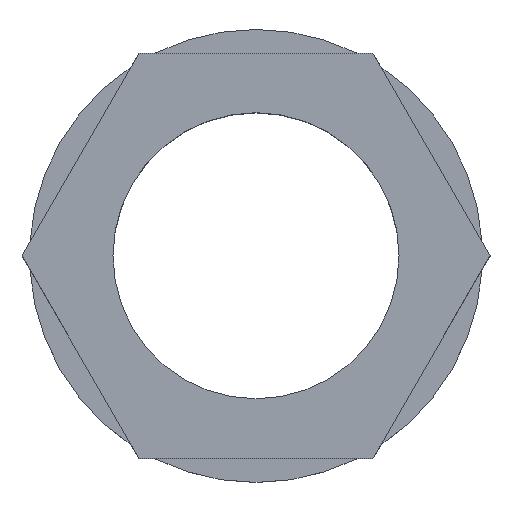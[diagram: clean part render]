
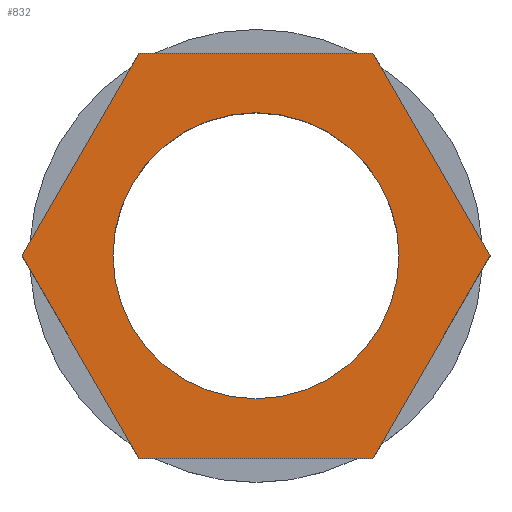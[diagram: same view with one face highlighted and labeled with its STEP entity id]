
A CAD part, top view. The second image highlights one B-rep face of the part: STEP entity #832.
In plain terms, the highlighted planar face has unit normal (0, 0, 1).
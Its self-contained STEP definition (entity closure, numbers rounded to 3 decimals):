
#32 = PLANE('',#33);
#33 = AXIS2_PLACEMENT_3D('',#34,#35,#36);
#34 = CARTESIAN_POINT('',(9.815,0.,204.));
#35 = DIRECTION('',(-0.866,-0.5,0.));
#36 = DIRECTION('',(-0.5,0.866,0.));
#57 = VERTEX_POINT('',#58);
#58 = CARTESIAN_POINT('',(9.815,0.,211.));
#72 = PLANE('',#73);
#73 = AXIS2_PLACEMENT_3D('',#74,#75,#76);
#74 = CARTESIAN_POINT('',(4.907,-8.5,204.));
#75 = DIRECTION('',(-0.866,0.5,0.));
#76 = DIRECTION('',(0.5,0.866,0.));
#84 = EDGE_CURVE('',#57,#85,#87,.T.);
#85 = VERTEX_POINT('',#86);
#86 = CARTESIAN_POINT('',(4.907,8.5,211.));
#87 = SURFACE_CURVE('',#88,(#92,#99),.PCURVE_S1.);
#88 = LINE('',#89,#90);
#89 = CARTESIAN_POINT('',(9.815,0.,211.));
#90 = VECTOR('',#91,1.);
#91 = DIRECTION('',(-0.5,0.866,0.));
#92 = PCURVE('',#32,#93);
#93 = DEFINITIONAL_REPRESENTATION('',(#94),#98);
#94 = LINE('',#95,#96);
#95 = CARTESIAN_POINT('',(0.,-7.));
#96 = VECTOR('',#97,1.);
#97 = DIRECTION('',(1.,0.));
#98 = ( GEOMETRIC_REPRESENTATION_CONTEXT(2) 
PARAMETRIC_REPRESENTATION_CONTEXT() REPRESENTATION_CONTEXT('2D SPACE',''
  ) );
#99 = PCURVE('',#100,#105);
#100 = PLANE('',#101);
#101 = AXIS2_PLACEMENT_3D('',#102,#103,#104);
#102 = CARTESIAN_POINT('',(0.,0.,211.));
#103 = DIRECTION('',(0.,0.,1.));
#104 = DIRECTION('',(1.,0.,-0.));
#105 = DEFINITIONAL_REPRESENTATION('',(#106),#110);
#106 = LINE('',#107,#108);
#107 = CARTESIAN_POINT('',(9.815,0.));
#108 = VECTOR('',#109,1.);
#109 = DIRECTION('',(-0.5,0.866));
#110 = ( GEOMETRIC_REPRESENTATION_CONTEXT(2) 
PARAMETRIC_REPRESENTATION_CONTEXT() REPRESENTATION_CONTEXT('2D SPACE',''
  ) );
#128 = PLANE('',#129);
#129 = AXIS2_PLACEMENT_3D('',#130,#131,#132);
#130 = CARTESIAN_POINT('',(4.907,8.5,204.));
#131 = DIRECTION('',(0.,-1.,0.));
#132 = DIRECTION('',(-1.,0.,0.));
#375 = PLANE('',#376);
#376 = AXIS2_PLACEMENT_3D('',#377,#378,#379);
#377 = CARTESIAN_POINT('',(-4.907,8.5,204.));
#378 = DIRECTION('',(0.866,-0.5,0.));
#379 = DIRECTION('',(-0.5,-0.866,0.));
#455 = PLANE('',#456);
#456 = AXIS2_PLACEMENT_3D('',#457,#458,#459);
#457 = CARTESIAN_POINT('',(-9.815,0.,204.));
#458 = DIRECTION('',(0.866,0.5,-0.));
#459 = DIRECTION('',(0.5,-0.866,0.));
#535 = PLANE('',#536);
#536 = AXIS2_PLACEMENT_3D('',#537,#538,#539);
#537 = CARTESIAN_POINT('',(-4.907,-8.5,204.));
#538 = DIRECTION('',(0.,1.,-0.));
#539 = DIRECTION('',(1.,0.,0.));
#672 = CYLINDRICAL_SURFACE('',#673,6.);
#673 = AXIS2_PLACEMENT_3D('',#674,#675,#676);
#674 = CARTESIAN_POINT('',(0.,0.,203.));
#675 = DIRECTION('',(-0.,-0.,-1.));
#676 = DIRECTION('',(1.,0.,0.));
#722 = EDGE_CURVE('',#85,#723,#725,.T.);
#723 = VERTEX_POINT('',#724);
#724 = CARTESIAN_POINT('',(-4.907,8.5,211.));
#725 = SURFACE_CURVE('',#726,(#730,#737),.PCURVE_S1.);
#726 = LINE('',#727,#728);
#727 = CARTESIAN_POINT('',(4.907,8.5,211.));
#728 = VECTOR('',#729,1.);
#729 = DIRECTION('',(-1.,0.,0.));
#730 = PCURVE('',#128,#731);
#731 = DEFINITIONAL_REPRESENTATION('',(#732),#736);
#732 = LINE('',#733,#734);
#733 = CARTESIAN_POINT('',(0.,-7.));
#734 = VECTOR('',#735,1.);
#735 = DIRECTION('',(1.,0.));
#736 = ( GEOMETRIC_REPRESENTATION_CONTEXT(2) 
PARAMETRIC_REPRESENTATION_CONTEXT() REPRESENTATION_CONTEXT('2D SPACE',''
  ) );
#737 = PCURVE('',#100,#738);
#738 = DEFINITIONAL_REPRESENTATION('',(#739),#743);
#739 = LINE('',#740,#741);
#740 = CARTESIAN_POINT('',(4.907,8.5));
#741 = VECTOR('',#742,1.);
#742 = DIRECTION('',(-1.,0.));
#743 = ( GEOMETRIC_REPRESENTATION_CONTEXT(2) 
PARAMETRIC_REPRESENTATION_CONTEXT() REPRESENTATION_CONTEXT('2D SPACE',''
  ) );
#832 = ADVANCED_FACE('',(#833,#927),#100,.T.);
#833 = FACE_BOUND('',#834,.T.);
#834 = EDGE_LOOP('',(#835,#836,#837,#860,#883,#906));
#835 = ORIENTED_EDGE('',*,*,#84,.T.);
#836 = ORIENTED_EDGE('',*,*,#722,.T.);
#837 = ORIENTED_EDGE('',*,*,#838,.T.);
#838 = EDGE_CURVE('',#723,#839,#841,.T.);
#839 = VERTEX_POINT('',#840);
#840 = CARTESIAN_POINT('',(-9.815,0.,211.));
#841 = SURFACE_CURVE('',#842,(#846,#853),.PCURVE_S1.);
#842 = LINE('',#843,#844);
#843 = CARTESIAN_POINT('',(-4.907,8.5,211.));
#844 = VECTOR('',#845,1.);
#845 = DIRECTION('',(-0.5,-0.866,0.));
#846 = PCURVE('',#100,#847);
#847 = DEFINITIONAL_REPRESENTATION('',(#848),#852);
#848 = LINE('',#849,#850);
#849 = CARTESIAN_POINT('',(-4.907,8.5));
#850 = VECTOR('',#851,1.);
#851 = DIRECTION('',(-0.5,-0.866));
#852 = ( GEOMETRIC_REPRESENTATION_CONTEXT(2) 
PARAMETRIC_REPRESENTATION_CONTEXT() REPRESENTATION_CONTEXT('2D SPACE',''
  ) );
#853 = PCURVE('',#375,#854);
#854 = DEFINITIONAL_REPRESENTATION('',(#855),#859);
#855 = LINE('',#856,#857);
#856 = CARTESIAN_POINT('',(0.,-7.));
#857 = VECTOR('',#858,1.);
#858 = DIRECTION('',(1.,0.));
#859 = ( GEOMETRIC_REPRESENTATION_CONTEXT(2) 
PARAMETRIC_REPRESENTATION_CONTEXT() REPRESENTATION_CONTEXT('2D SPACE',''
  ) );
#860 = ORIENTED_EDGE('',*,*,#861,.T.);
#861 = EDGE_CURVE('',#839,#862,#864,.T.);
#862 = VERTEX_POINT('',#863);
#863 = CARTESIAN_POINT('',(-4.907,-8.5,211.));
#864 = SURFACE_CURVE('',#865,(#869,#876),.PCURVE_S1.);
#865 = LINE('',#866,#867);
#866 = CARTESIAN_POINT('',(-9.815,0.,211.));
#867 = VECTOR('',#868,1.);
#868 = DIRECTION('',(0.5,-0.866,0.));
#869 = PCURVE('',#100,#870);
#870 = DEFINITIONAL_REPRESENTATION('',(#871),#875);
#871 = LINE('',#872,#873);
#872 = CARTESIAN_POINT('',(-9.815,0.));
#873 = VECTOR('',#874,1.);
#874 = DIRECTION('',(0.5,-0.866));
#875 = ( GEOMETRIC_REPRESENTATION_CONTEXT(2) 
PARAMETRIC_REPRESENTATION_CONTEXT() REPRESENTATION_CONTEXT('2D SPACE',''
  ) );
#876 = PCURVE('',#455,#877);
#877 = DEFINITIONAL_REPRESENTATION('',(#878),#882);
#878 = LINE('',#879,#880);
#879 = CARTESIAN_POINT('',(0.,-7.));
#880 = VECTOR('',#881,1.);
#881 = DIRECTION('',(1.,0.));
#882 = ( GEOMETRIC_REPRESENTATION_CONTEXT(2) 
PARAMETRIC_REPRESENTATION_CONTEXT() REPRESENTATION_CONTEXT('2D SPACE',''
  ) );
#883 = ORIENTED_EDGE('',*,*,#884,.T.);
#884 = EDGE_CURVE('',#862,#885,#887,.T.);
#885 = VERTEX_POINT('',#886);
#886 = CARTESIAN_POINT('',(4.907,-8.5,211.));
#887 = SURFACE_CURVE('',#888,(#892,#899),.PCURVE_S1.);
#888 = LINE('',#889,#890);
#889 = CARTESIAN_POINT('',(-4.907,-8.5,211.));
#890 = VECTOR('',#891,1.);
#891 = DIRECTION('',(1.,0.,0.));
#892 = PCURVE('',#100,#893);
#893 = DEFINITIONAL_REPRESENTATION('',(#894),#898);
#894 = LINE('',#895,#896);
#895 = CARTESIAN_POINT('',(-4.907,-8.5));
#896 = VECTOR('',#897,1.);
#897 = DIRECTION('',(1.,0.));
#898 = ( GEOMETRIC_REPRESENTATION_CONTEXT(2) 
PARAMETRIC_REPRESENTATION_CONTEXT() REPRESENTATION_CONTEXT('2D SPACE',''
  ) );
#899 = PCURVE('',#535,#900);
#900 = DEFINITIONAL_REPRESENTATION('',(#901),#905);
#901 = LINE('',#902,#903);
#902 = CARTESIAN_POINT('',(0.,-7.));
#903 = VECTOR('',#904,1.);
#904 = DIRECTION('',(1.,0.));
#905 = ( GEOMETRIC_REPRESENTATION_CONTEXT(2) 
PARAMETRIC_REPRESENTATION_CONTEXT() REPRESENTATION_CONTEXT('2D SPACE',''
  ) );
#906 = ORIENTED_EDGE('',*,*,#907,.T.);
#907 = EDGE_CURVE('',#885,#57,#908,.T.);
#908 = SURFACE_CURVE('',#909,(#913,#920),.PCURVE_S1.);
#909 = LINE('',#910,#911);
#910 = CARTESIAN_POINT('',(4.907,-8.5,211.));
#911 = VECTOR('',#912,1.);
#912 = DIRECTION('',(0.5,0.866,0.));
#913 = PCURVE('',#100,#914);
#914 = DEFINITIONAL_REPRESENTATION('',(#915),#919);
#915 = LINE('',#916,#917);
#916 = CARTESIAN_POINT('',(4.907,-8.5));
#917 = VECTOR('',#918,1.);
#918 = DIRECTION('',(0.5,0.866));
#919 = ( GEOMETRIC_REPRESENTATION_CONTEXT(2) 
PARAMETRIC_REPRESENTATION_CONTEXT() REPRESENTATION_CONTEXT('2D SPACE',''
  ) );
#920 = PCURVE('',#72,#921);
#921 = DEFINITIONAL_REPRESENTATION('',(#922),#926);
#922 = LINE('',#923,#924);
#923 = CARTESIAN_POINT('',(0.,-7.));
#924 = VECTOR('',#925,1.);
#925 = DIRECTION('',(1.,0.));
#926 = ( GEOMETRIC_REPRESENTATION_CONTEXT(2) 
PARAMETRIC_REPRESENTATION_CONTEXT() REPRESENTATION_CONTEXT('2D SPACE',''
  ) );
#927 = FACE_BOUND('',#928,.T.);
#928 = EDGE_LOOP('',(#929));
#929 = ORIENTED_EDGE('',*,*,#930,.T.);
#930 = EDGE_CURVE('',#931,#931,#933,.T.);
#931 = VERTEX_POINT('',#932);
#932 = CARTESIAN_POINT('',(6.,0.,211.));
#933 = SURFACE_CURVE('',#934,(#939,#950),.PCURVE_S1.);
#934 = CIRCLE('',#935,6.);
#935 = AXIS2_PLACEMENT_3D('',#936,#937,#938);
#936 = CARTESIAN_POINT('',(0.,0.,211.));
#937 = DIRECTION('',(0.,0.,-1.));
#938 = DIRECTION('',(1.,0.,0.));
#939 = PCURVE('',#100,#940);
#940 = DEFINITIONAL_REPRESENTATION('',(#941),#949);
#941 = ( BOUNDED_CURVE() B_SPLINE_CURVE(2,(#942,#943,#944,#945,#946,#947
,#948),.UNSPECIFIED.,.T.,.F.) B_SPLINE_CURVE_WITH_KNOTS((1,2,2,2,2,1),(
    -2.094,0.,2.094,4.189,6.283,
8.378),.UNSPECIFIED.) CURVE() GEOMETRIC_REPRESENTATION_ITEM() 
RATIONAL_B_SPLINE_CURVE((1.,0.5,1.,0.5,1.,0.5,1.)) REPRESENTATION_ITEM(
  '') );
#942 = CARTESIAN_POINT('',(6.,0.));
#943 = CARTESIAN_POINT('',(6.,-10.392));
#944 = CARTESIAN_POINT('',(-3.,-5.196));
#945 = CARTESIAN_POINT('',(-12.,0.));
#946 = CARTESIAN_POINT('',(-3.,5.196));
#947 = CARTESIAN_POINT('',(6.,10.392));
#948 = CARTESIAN_POINT('',(6.,0.));
#949 = ( GEOMETRIC_REPRESENTATION_CONTEXT(2) 
PARAMETRIC_REPRESENTATION_CONTEXT() REPRESENTATION_CONTEXT('2D SPACE',''
  ) );
#950 = PCURVE('',#672,#951);
#951 = DEFINITIONAL_REPRESENTATION('',(#952),#956);
#952 = LINE('',#953,#954);
#953 = CARTESIAN_POINT('',(-6.283,-8.));
#954 = VECTOR('',#955,1.);
#955 = DIRECTION('',(1.,-0.));
#956 = ( GEOMETRIC_REPRESENTATION_CONTEXT(2) 
PARAMETRIC_REPRESENTATION_CONTEXT() REPRESENTATION_CONTEXT('2D SPACE',''
  ) );
